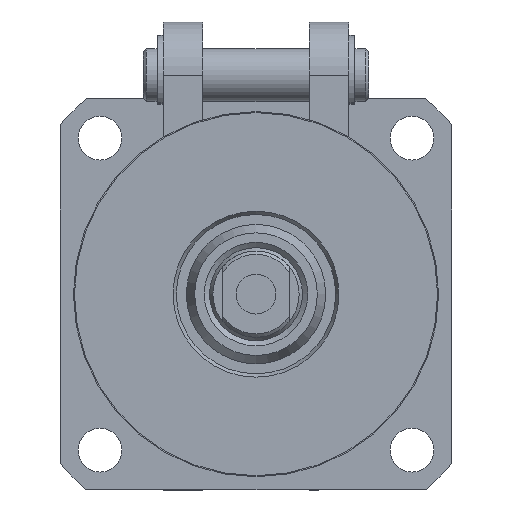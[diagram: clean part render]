
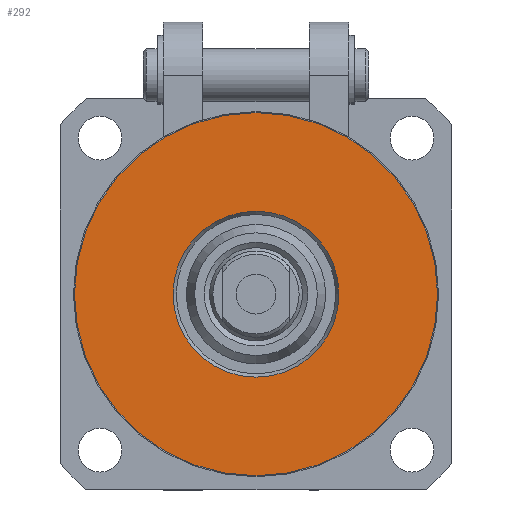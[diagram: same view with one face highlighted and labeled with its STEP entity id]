
A CAD part, front view. The second image highlights one B-rep face of the part: STEP entity #292.
In plain terms, the highlighted planar face has unit normal (0, -1, 0).
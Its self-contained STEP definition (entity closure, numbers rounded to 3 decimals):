
#292 = ADVANCED_FACE( '', ( #601, #602 ), #603, .T. );
#601 = FACE_OUTER_BOUND( '', #1282, .T. );
#602 = FACE_BOUND( '', #1283, .T. );
#603 = PLANE( '', #1284 );
#1282 = EDGE_LOOP( '', ( #2048 ) );
#1283 = EDGE_LOOP( '', ( #2049 ) );
#1284 = AXIS2_PLACEMENT_3D( '', #2050, #2051, #2052 );
#2048 = ORIENTED_EDGE( '', *, *, #4133, .T. );
#2049 = ORIENTED_EDGE( '', *, *, #4134, .F. );
#2050 = CARTESIAN_POINT( '', ( 0., -57.5, 0. ) );
#2051 = DIRECTION( '', ( 0., -1., 0. ) );
#2052 = DIRECTION( '', ( 1., 0., 0. ) );
#4133 = EDGE_CURVE( '', #4860, #4860, #4861, .T. );
#4134 = EDGE_CURVE( '', #4862, #4862, #4863, .T. );
#4860 = VERTEX_POINT( '', #6020 );
#4861 = CIRCLE( '', #6021, 27.35 );
#4862 = VERTEX_POINT( '', #6022 );
#4863 = CIRCLE( '', #6023, 12.5 );
#6020 = CARTESIAN_POINT( '', ( -27.35, -57.5, 0. ) );
#6021 = AXIS2_PLACEMENT_3D( '', #7504, #7505, #7506 );
#6022 = CARTESIAN_POINT( '', ( 0., -57.5, 12.5 ) );
#6023 = AXIS2_PLACEMENT_3D( '', #7507, #7508, #7509 );
#7504 = CARTESIAN_POINT( '', ( 0., -57.5, 0. ) );
#7505 = DIRECTION( '', ( 0., -1., 0. ) );
#7506 = DIRECTION( '', ( -1., 0., 0. ) );
#7507 = CARTESIAN_POINT( '', ( 0., -57.5, 0. ) );
#7508 = DIRECTION( '', ( 0., -1., 0. ) );
#7509 = DIRECTION( '', ( 0., 0., 1. ) );
